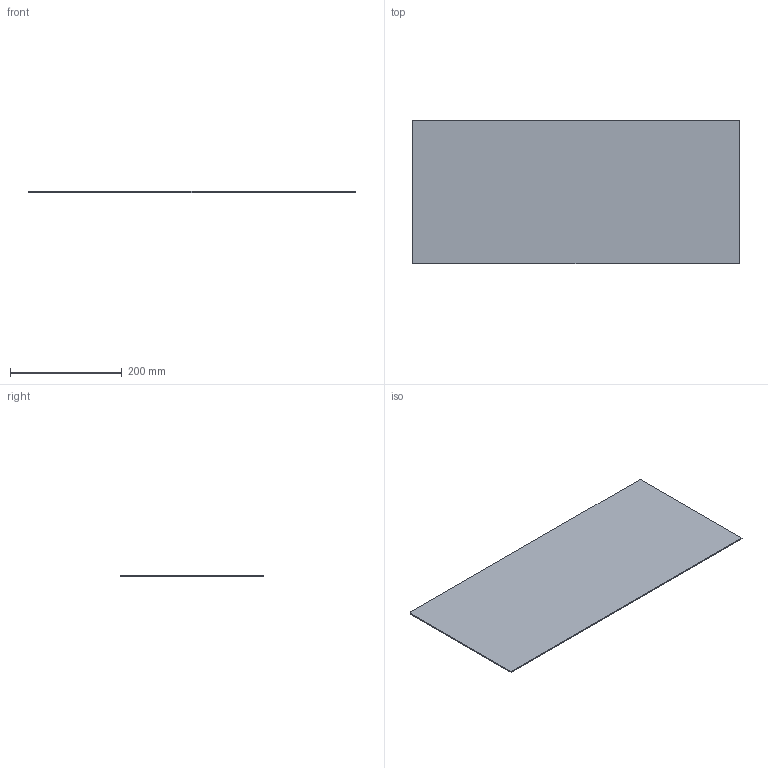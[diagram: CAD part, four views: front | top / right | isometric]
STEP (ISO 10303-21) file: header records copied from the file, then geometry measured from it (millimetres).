
FILE_DESCRIPTION(('Open CASCADE Model'),'2;1');
FILE_NAME('Open CASCADE Shape Model','2026-10-15T15:10:05',('Author'),( 'Open CASCADE'),'Open CASCADE STEP processor 8.0','Open CASCADE 8.0' ,'Unknown');
FILE_SCHEMA(('AUTOMOTIVE_DESIGN { 1 0 10303 214 1 1 1 1 }'));
Length unit declared in the file: millimetre
Products named in the file (1): MG13_GUARDA_TESTERO_586x258x2_P05 127
Bounding box: 586 x 258 x 2 mm (x, y, z)
Volume: 302368.3 mm3; surface area: 305739.1 mm2
Topology: 1 solids, 1 shells, 8 faces, 18 edges, 12 vertices
Faces by surface type: plane 6, cylinder 2
Entity records: 470 total; most frequent: DIRECTION 76, CARTESIAN_POINT 75, LINE 46, VECTOR 46, ORIENTED_EDGE 36, PCURVE 36, DEFINITIONAL_REPRESENTATION 36, EDGE_CURVE 18
